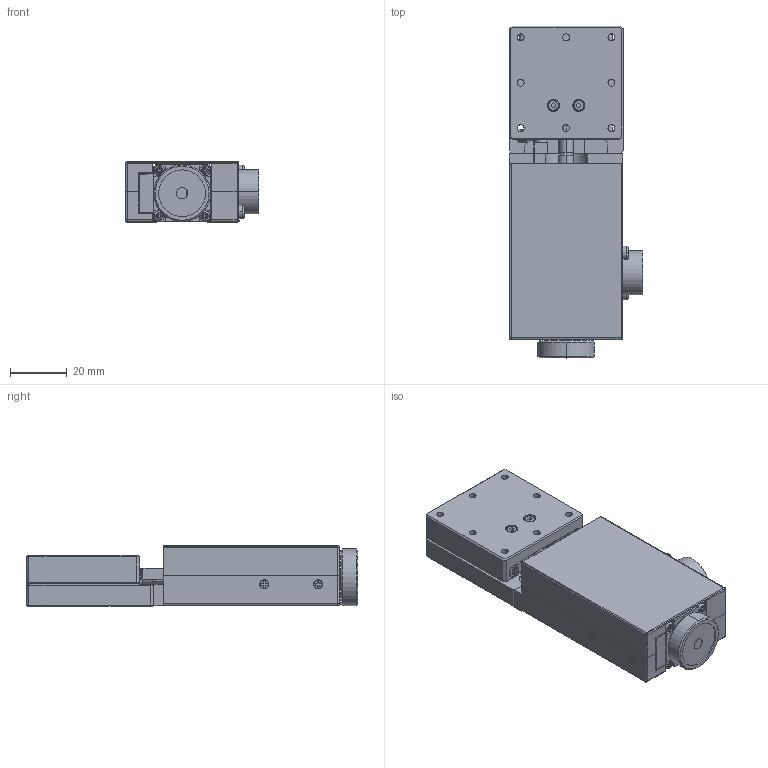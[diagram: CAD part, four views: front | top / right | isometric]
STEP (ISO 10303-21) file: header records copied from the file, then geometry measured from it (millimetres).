
FILE_DESCRIPTION((''),'2;1');
FILE_NAME('\\Fsv\WorkData\シグマ光機\061208_ｽﾃｯﾋﾟﾝｸﾞﾓｰﾀ駆動ｽﾃｰｼﾞ\TSDM\TSDM40\TSDM40-15(X)\TSDM40-15X.stp','2006-12-18T15:35:35',('既定'),(''),'Autodesk Inventor 8','Autodesk Inventor 8','');
FILE_SCHEMA(('AUTOMOTIVE_DESIGN { 1 0 10303 214 1 1 1 1 }'));
Length unit declared in the file: millimetre
Products named in the file (3): DM401S15-M02-04001B-P11; DM401S15-M02-04001B-S10; DM401S15-M02-04001B-S01
Assembly tree (2 placements, depth 2):
  DM401S15-M02-04001B-P11
    DM401S15-M02-04001B-S10
    DM401S15-M02-04001B-S01
Bounding box: 47 x 117 x 21.5 mm (x, y, z)
Volume: 58132.2 mm3; surface area: 42493 mm2
Topology: 2 solids, 58 shells, 1738 faces, 4390 edges, 2806 vertices
Faces by surface type: plane 840, cylinder 397, bspline 353, cone 116, sphere 18, torus 14
Entity records: 58042 total; most frequent: CARTESIAN_POINT 16779, ORIENTED_EDGE 8692, DIRECTION 8363, EDGE_CURVE 4346, AXIS2_PLACEMENT_3D 2884, VERTEX_POINT 2806, VECTOR 2595, LINE 2595
